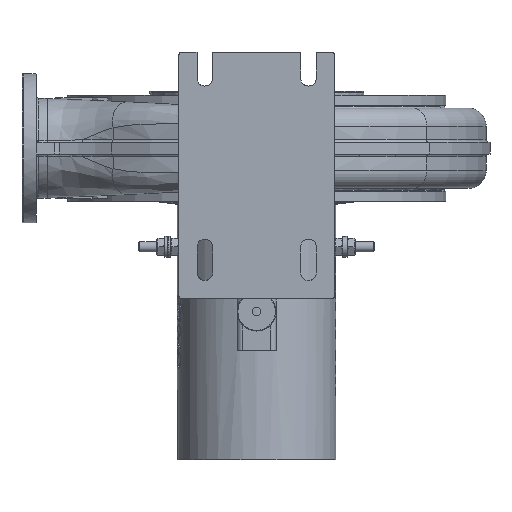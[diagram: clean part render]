
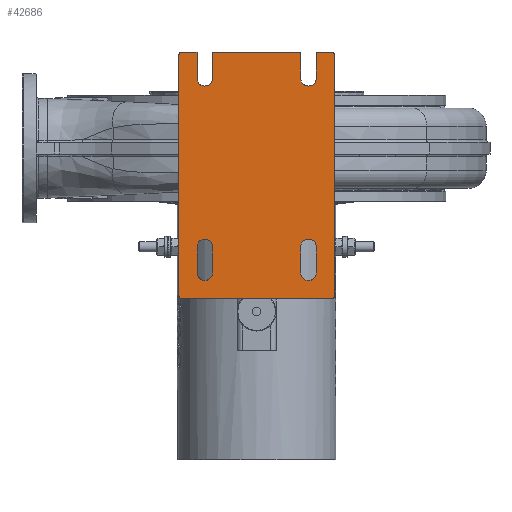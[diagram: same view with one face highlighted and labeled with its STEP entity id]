
A CAD part, front view. The second image highlights one B-rep face of the part: STEP entity #42686.
In plain terms, the highlighted planar face has unit normal (0, -1, 0).
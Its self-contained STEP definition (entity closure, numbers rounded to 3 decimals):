
#3183=FACE_BOUND('',#6839,.T.);
#3184=FACE_BOUND('',#6840,.T.);
#4354=FACE_OUTER_BOUND('',#6838,.T.);
#6838=EDGE_LOOP('',(#32464,#32465,#32466,#32467,#32468,#32469,#32470,#32471,
#32472,#32473,#32474,#32475,#32476,#32477,#32478,#32479));
#6839=EDGE_LOOP('',(#32480,#32481,#32482,#32483));
#6840=EDGE_LOOP('',(#32484,#32485,#32486,#32487));
#9065=CIRCLE('',#44729,6.);
#9066=CIRCLE('',#44733,6.);
#9067=CIRCLE('',#44736,6.);
#9068=CIRCLE('',#44740,6.);
#9069=CIRCLE('',#44745,6.);
#9071=CIRCLE('',#44750,6.);
#9083=CIRCLE('',#44782,2.);
#9087=CIRCLE('',#44799,2.);
#9088=CIRCLE('',#44800,2.);
#9089=CIRCLE('',#44801,2.);
#10972=LINE('',#76516,#14599);
#10977=LINE('',#76530,#14604);
#10982=LINE('',#76548,#14609);
#10986=LINE('',#76559,#14613);
#10991=LINE('',#76577,#14618);
#10996=LINE('',#76593,#14623);
#11002=LINE('',#76608,#14629);
#11022=LINE('',#76709,#14649);
#11024=LINE('',#76714,#14651);
#11031=LINE('',#76744,#14658);
#11043=LINE('',#76792,#14670);
#11044=LINE('',#76798,#14671);
#11045=LINE('',#76801,#14672);
#11046=LINE('',#76804,#14673);
#14599=VECTOR('',#49043,10.);
#14604=VECTOR('',#49056,10.);
#14609=VECTOR('',#49075,10.);
#14613=VECTOR('',#49087,10.);
#14618=VECTOR('',#49102,10.);
#14623=VECTOR('',#49117,10.);
#14629=VECTOR('',#49129,10.);
#14649=VECTOR('',#49191,10.);
#14651=VECTOR('',#49197,10.);
#14658=VECTOR('',#49224,10.);
#14670=VECTOR('',#49254,10.);
#14671=VECTOR('',#49259,10.);
#14672=VECTOR('',#49262,10.);
#14673=VECTOR('',#49265,10.);
#18831=VERTEX_POINT('',#76514);
#18832=VERTEX_POINT('',#76515);
#18835=VERTEX_POINT('',#76523);
#18837=VERTEX_POINT('',#76529);
#18839=VERTEX_POINT('',#76538);
#18840=VERTEX_POINT('',#76539);
#18843=VERTEX_POINT('',#76547);
#18845=VERTEX_POINT('',#76553);
#18849=VERTEX_POINT('',#76565);
#18850=VERTEX_POINT('',#76567);
#18853=VERTEX_POINT('',#76574);
#18854=VERTEX_POINT('',#76576);
#18857=VERTEX_POINT('',#76584);
#18860=VERTEX_POINT('',#76592);
#18866=VERTEX_POINT('',#76606);
#18893=VERTEX_POINT('',#76706);
#18894=VERTEX_POINT('',#76708);
#18897=VERTEX_POINT('',#76721);
#18911=VERTEX_POINT('',#76789);
#18912=VERTEX_POINT('',#76794);
#18913=VERTEX_POINT('',#76795);
#18914=VERTEX_POINT('',#76797);
#18915=VERTEX_POINT('',#76800);
#18916=VERTEX_POINT('',#76802);
#23734=EDGE_CURVE('',#18831,#18832,#10972,.T.);
#23738=EDGE_CURVE('',#18835,#18831,#9065,.T.);
#23741=EDGE_CURVE('',#18837,#18835,#10977,.T.);
#23744=EDGE_CURVE('',#18832,#18837,#9066,.T.);
#23746=EDGE_CURVE('',#18839,#18840,#9067,.T.);
#23750=EDGE_CURVE('',#18843,#18839,#10982,.T.);
#23753=EDGE_CURVE('',#18845,#18843,#9068,.T.);
#23756=EDGE_CURVE('',#18840,#18845,#10986,.T.);
#23760=EDGE_CURVE('',#18849,#18850,#9069,.T.);
#23764=EDGE_CURVE('',#18853,#18854,#10991,.T.);
#23768=EDGE_CURVE('',#18854,#18857,#9071,.T.);
#23772=EDGE_CURVE('',#18857,#18860,#10996,.T.);
#23780=EDGE_CURVE('',#18866,#18853,#11002,.T.);
#23814=EDGE_CURVE('',#18893,#18894,#11022,.T.);
#23817=EDGE_CURVE('',#18894,#18849,#11024,.T.);
#23821=EDGE_CURVE('',#18897,#18893,#9083,.T.);
#23830=EDGE_CURVE('',#18850,#18866,#11031,.T.);
#23847=EDGE_CURVE('',#18860,#18911,#11043,.T.);
#23848=EDGE_CURVE('',#18912,#18913,#9087,.T.);
#23849=EDGE_CURVE('',#18914,#18912,#11044,.T.);
#23850=EDGE_CURVE('',#18911,#18914,#9088,.T.);
#23851=EDGE_CURVE('',#18915,#18897,#11045,.T.);
#23852=EDGE_CURVE('',#18916,#18915,#9089,.T.);
#23853=EDGE_CURVE('',#18913,#18916,#11046,.T.);
#32464=ORIENTED_EDGE('',*,*,#23848,.F.);
#32465=ORIENTED_EDGE('',*,*,#23849,.F.);
#32466=ORIENTED_EDGE('',*,*,#23850,.F.);
#32467=ORIENTED_EDGE('',*,*,#23847,.F.);
#32468=ORIENTED_EDGE('',*,*,#23772,.F.);
#32469=ORIENTED_EDGE('',*,*,#23768,.F.);
#32470=ORIENTED_EDGE('',*,*,#23764,.F.);
#32471=ORIENTED_EDGE('',*,*,#23780,.F.);
#32472=ORIENTED_EDGE('',*,*,#23830,.F.);
#32473=ORIENTED_EDGE('',*,*,#23760,.F.);
#32474=ORIENTED_EDGE('',*,*,#23817,.F.);
#32475=ORIENTED_EDGE('',*,*,#23814,.F.);
#32476=ORIENTED_EDGE('',*,*,#23821,.F.);
#32477=ORIENTED_EDGE('',*,*,#23851,.F.);
#32478=ORIENTED_EDGE('',*,*,#23852,.F.);
#32479=ORIENTED_EDGE('',*,*,#23853,.F.);
#32480=ORIENTED_EDGE('',*,*,#23746,.T.);
#32481=ORIENTED_EDGE('',*,*,#23756,.T.);
#32482=ORIENTED_EDGE('',*,*,#23753,.T.);
#32483=ORIENTED_EDGE('',*,*,#23750,.T.);
#32484=ORIENTED_EDGE('',*,*,#23734,.T.);
#32485=ORIENTED_EDGE('',*,*,#23744,.T.);
#32486=ORIENTED_EDGE('',*,*,#23741,.T.);
#32487=ORIENTED_EDGE('',*,*,#23738,.T.);
#40910=PLANE('',#44798);
#42686=ADVANCED_FACE('',(#4354,#3183,#3184),#40910,.F.);
#44729=AXIS2_PLACEMENT_3D('',#76524,#49049,#49050);
#44733=AXIS2_PLACEMENT_3D('',#76535,#49061,#49062);
#44736=AXIS2_PLACEMENT_3D('',#76540,#49067,#49068);
#44740=AXIS2_PLACEMENT_3D('',#76554,#49080,#49081);
#44745=AXIS2_PLACEMENT_3D('',#76568,#49094,#49095);
#44750=AXIS2_PLACEMENT_3D('',#76585,#49109,#49110);
#44782=AXIS2_PLACEMENT_3D('',#76722,#49206,#49207);
#44798=AXIS2_PLACEMENT_3D('',#76793,#49255,#49256);
#44799=AXIS2_PLACEMENT_3D('',#76796,#49257,#49258);
#44800=AXIS2_PLACEMENT_3D('',#76799,#49260,#49261);
#44801=AXIS2_PLACEMENT_3D('',#76803,#49263,#49264);
#49043=DIRECTION('',(0.,0.,-1.));
#49049=DIRECTION('center_axis',(0.,1.,0.));
#49050=DIRECTION('ref_axis',(-1.,0.,0.));
#49056=DIRECTION('',(0.,0.,1.));
#49061=DIRECTION('center_axis',(0.,1.,0.));
#49062=DIRECTION('ref_axis',(1.,0.,0.));
#49067=DIRECTION('center_axis',(0.,1.,0.));
#49068=DIRECTION('ref_axis',(1.,0.,0.));
#49075=DIRECTION('',(0.,0.,-1.));
#49080=DIRECTION('center_axis',(0.,1.,0.));
#49081=DIRECTION('ref_axis',(-1.,0.,0.));
#49087=DIRECTION('',(0.,0.,1.));
#49094=DIRECTION('center_axis',(0.,-1.,0.));
#49095=DIRECTION('ref_axis',(1.,0.,0.));
#49102=DIRECTION('',(0.,0.,-1.));
#49109=DIRECTION('center_axis',(0.,-1.,0.));
#49110=DIRECTION('ref_axis',(1.,0.,0.));
#49117=DIRECTION('',(0.,0.,1.));
#49129=DIRECTION('',(1.,0.,0.));
#49191=DIRECTION('',(1.,0.,0.));
#49197=DIRECTION('',(0.,0.,-1.));
#49206=DIRECTION('center_axis',(0.,1.,0.));
#49207=DIRECTION('ref_axis',(-0.707,0.,0.707));
#49224=DIRECTION('',(0.,0.,1.));
#49254=DIRECTION('',(1.,0.,0.));
#49255=DIRECTION('center_axis',(0.,1.,0.));
#49256=DIRECTION('ref_axis',(0.,0.,1.));
#49257=DIRECTION('center_axis',(0.,1.,0.));
#49258=DIRECTION('ref_axis',(0.707,0.,-0.707));
#49259=DIRECTION('',(0.,0.,-1.));
#49260=DIRECTION('center_axis',(0.,1.,0.));
#49261=DIRECTION('ref_axis',(0.707,0.,0.707));
#49262=DIRECTION('',(0.,0.,1.));
#49263=DIRECTION('center_axis',(0.,1.,0.));
#49264=DIRECTION('ref_axis',(-0.707,0.,-0.707));
#49265=DIRECTION('',(-1.,0.,0.));
#76514=CARTESIAN_POINT('',(-57.73,-117.939,-17.));
#76515=CARTESIAN_POINT('',(-57.73,-117.939,-37.));
#76516=CARTESIAN_POINT('',(-57.73,-117.939,15.556));
#76523=CARTESIAN_POINT('',(-69.73,-117.939,-17.));
#76524=CARTESIAN_POINT('Origin',(-63.73,-117.939,-17.));
#76529=CARTESIAN_POINT('',(-69.73,-117.939,-37.));
#76530=CARTESIAN_POINT('',(-69.73,-117.939,5.556));
#76535=CARTESIAN_POINT('Origin',(-63.73,-117.939,-37.));
#76538=CARTESIAN_POINT('',(22.27,-117.939,-37.));
#76539=CARTESIAN_POINT('',(10.27,-117.939,-37.));
#76540=CARTESIAN_POINT('Origin',(16.27,-117.939,-37.));
#76547=CARTESIAN_POINT('',(22.27,-117.939,-17.));
#76548=CARTESIAN_POINT('',(22.27,-117.939,15.556));
#76553=CARTESIAN_POINT('',(10.27,-117.939,-17.));
#76554=CARTESIAN_POINT('Origin',(16.27,-117.939,-17.));
#76559=CARTESIAN_POINT('',(10.27,-117.939,5.556));
#76565=CARTESIAN_POINT('',(-69.73,-117.939,113.));
#76567=CARTESIAN_POINT('',(-57.73,-117.939,113.));
#76568=CARTESIAN_POINT('Origin',(-63.73,-117.939,113.));
#76574=CARTESIAN_POINT('',(10.27,-117.939,133.));
#76576=CARTESIAN_POINT('',(10.27,-117.939,113.));
#76577=CARTESIAN_POINT('',(10.27,-117.939,113.));
#76584=CARTESIAN_POINT('',(22.27,-117.939,113.));
#76585=CARTESIAN_POINT('Origin',(16.27,-117.939,113.));
#76592=CARTESIAN_POINT('',(22.27,-117.939,133.));
#76593=CARTESIAN_POINT('',(22.27,-117.939,133.));
#76606=CARTESIAN_POINT('',(-57.73,-117.939,133.));
#76608=CARTESIAN_POINT('',(10.27,-117.939,133.));
#76706=CARTESIAN_POINT('',(-81.73,-117.939,133.));
#76708=CARTESIAN_POINT('',(-69.73,-117.939,133.));
#76709=CARTESIAN_POINT('',(-69.73,-117.939,133.));
#76714=CARTESIAN_POINT('',(-69.73,-117.939,113.));
#76721=CARTESIAN_POINT('',(-83.73,-117.939,131.));
#76722=CARTESIAN_POINT('Origin',(-81.73,-117.939,131.));
#76744=CARTESIAN_POINT('',(-57.73,-117.939,133.));
#76789=CARTESIAN_POINT('',(34.27,-117.939,133.));
#76792=CARTESIAN_POINT('',(36.27,-117.939,133.));
#76793=CARTESIAN_POINT('Origin',(-23.73,-117.939,48.113));
#76794=CARTESIAN_POINT('',(36.27,-117.939,-55.));
#76795=CARTESIAN_POINT('',(34.27,-117.939,-57.));
#76796=CARTESIAN_POINT('Origin',(34.27,-117.939,-55.));
#76797=CARTESIAN_POINT('',(36.27,-117.939,131.));
#76798=CARTESIAN_POINT('',(36.27,-117.939,-57.));
#76799=CARTESIAN_POINT('Origin',(34.27,-117.939,131.));
#76800=CARTESIAN_POINT('',(-83.73,-117.939,-55.));
#76801=CARTESIAN_POINT('',(-83.73,-117.939,133.));
#76802=CARTESIAN_POINT('',(-81.73,-117.939,-57.));
#76803=CARTESIAN_POINT('Origin',(-81.73,-117.939,-55.));
#76804=CARTESIAN_POINT('',(-83.73,-117.939,-57.));
